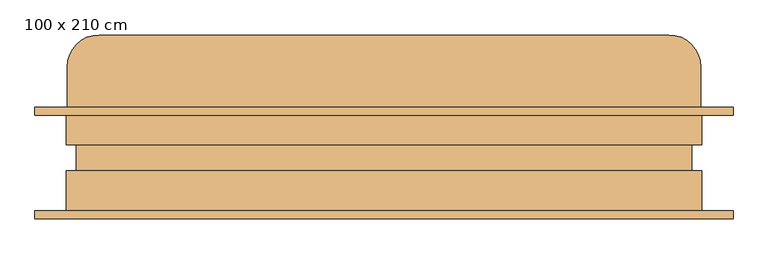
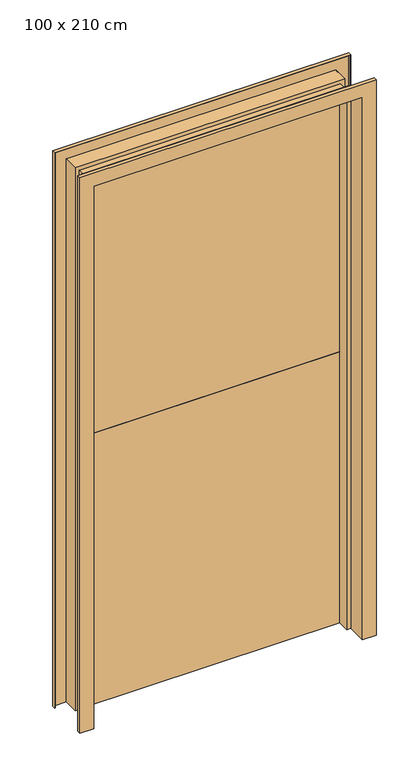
"""IFC4 building model written with IfcOpenShell, lengths in millimetres: door geometry, Dutch_door_-_2_stacked_leaves_2298 : 100 x 210 cm."""

from ifc_helpers import new_model, si_unit, frame, origin, place, context, project, spatial, polyline, circle_curve, outline, extrude, faceted_brep, source, transform, mapped, element, save
from ifc_brep_helpers import plane_surface, cylinder_surface, advanced_brep


def door_100_x_210_cm_40a421d0(model_context):
    return source(origin(), model_context, "Body", "SolidModel", [
        faceted_brep([(-550.8, -87.7, 0.0), (-550.8, -75.0, 0.0), (-549.2125, -75.0, 0.0), (-549.2125, -86.1125, 0.0), (-501.5875, -86.1125, 0.0), (-501.5875, -12.3125, 0.0), (-485.7125, -12.3125, 0.0), (-485.7125, 28.9625, 0.0), (-501.5875, 28.9625, 0.0), (-501.5875, 86.1125, 0.0), (-549.2125, 86.1125, 0.0), (-549.2125, 75.0, 0.0), (-550.8, 75.0, 0.0), (-550.8, 87.7, 0.0), (-500.0, 87.7, 0.0), (-500.0, 30.55, 0.0), (-484.125, 30.55, 0.0), (-484.125, -13.9, 0.0), (-500.0, -13.9, 0.0), (-500.0, -87.7, 0.0), (-550.8, -87.7, 2184.4), (-550.8, -75.0, 2184.4), (550.8, -75.0, 2184.4), (550.8, -75.0, 0.0), (549.2125, -75.0, 0.0), (549.2125, -75.0, 2182.8125), (-549.2125, -75.0, 2182.8125), (-549.2125, -86.1125, 2182.8125), (549.2125, -86.1125, 2182.8125), (549.2125, -86.1125, 0.0), (501.5875, -86.1125, 0.0), (501.5875, -86.1125, 2135.1875), (-501.5875, -86.1125, 2135.1875), (-501.5875, -12.3125, 2135.1875), (501.5875, -12.3125, 2135.1875), (501.5875, -12.3125, 0.0), (485.7125, -12.3125, 0.0), (485.7125, -12.3125, 2119.3125), (-485.7125, -12.3125, 2119.3125), (-485.7125, 28.9625, 2119.3125), (485.7125, 28.9625, 2119.3125), (485.7125, 28.9625, 0.0), (501.5875, 28.9625, 0.0), (501.5875, 28.9625, 2135.1875), (-501.5875, 28.9625, 2135.1875), (-501.5875, 86.1125, 2135.1875), (501.5875, 86.1125, 2135.1875), (501.5875, 86.1125, 0.0), (549.2125, 86.1125, 0.0), (549.2125, 86.1125, 2182.8125), (-549.2125, 86.1125, 2182.8125), (-549.2125, 75.0, 2182.8125), (549.2125, 75.0, 2182.8125), (549.2125, 75.0, 0.0), (550.8, 75.0, 0.0), (550.8, 75.0, 2184.4), (-550.8, 75.0, 2184.4), (-550.8, 87.7, 2184.4), (550.8, 87.7, 2184.4), (550.8, 87.7, 0.0), (500.0, 87.7, 0.0), (500.0, 87.7, 2133.6), (-500.0, 87.7, 2133.6), (-500.0, 30.55, 2133.6), (500.0, 30.55, 2133.6), (500.0, 30.55, 0.0), (484.125, 30.55, 0.0), (484.125, 30.55, 2117.725), (-484.125, 30.55, 2117.725), (-484.125, -13.9, 2117.725), (484.125, -13.9, 2117.725), (484.125, -13.9, 0.0), (500.0, -13.9, 0.0), (500.0, -13.9, 2133.6), (-500.0, -13.9, 2133.6), (-500.0, -87.7, 2133.6), (500.0, -87.7, 2133.6), (500.0, -87.7, 0.0), (550.8, -87.7, 0.0), (550.8, -87.7, 2184.4)], [[[0, 1, 2, 3, 4, 5, 6, 7, 8, 9, 10, 11, 12, 13, 14, 15, 16, 17, 18, 19]], [[1, 0, 20, 21]], [[2, 1, 21, 22, 23, 24, 25, 26]], [[3, 2, 26, 27]], [[4, 3, 27, 28, 29, 30, 31, 32]], [[5, 4, 32, 33]], [[6, 5, 33, 34, 35, 36, 37, 38]], [[7, 6, 38, 39]], [[8, 7, 39, 40, 41, 42, 43, 44]], [[9, 8, 44, 45]], [[10, 9, 45, 46, 47, 48, 49, 50]], [[11, 10, 50, 51]], [[12, 11, 51, 52, 53, 54, 55, 56]], [[13, 12, 56, 57]], [[14, 13, 57, 58, 59, 60, 61, 62]], [[15, 14, 62, 63]], [[16, 15, 63, 64, 65, 66, 67, 68]], [[17, 16, 68, 69]], [[18, 17, 69, 70, 71, 72, 73, 74]], [[19, 18, 74, 75]], [[0, 19, 75, 76, 77, 78, 79, 20]], [[22, 79, 78, 23]], [[78, 77, 72, 71, 66, 65, 60, 59, 54, 53, 48, 47, 42, 41, 36, 35, 30, 29, 24, 23]], [[28, 25, 24, 29]], [[34, 31, 30, 35]], [[40, 37, 36, 41]], [[46, 43, 42, 47]], [[52, 49, 48, 53]], [[58, 55, 54, 59]], [[64, 61, 60, 65]], [[70, 67, 66, 71]], [[76, 73, 72, 77]], [[21, 20, 79, 22]], [[27, 26, 25, 28]], [[33, 32, 31, 34]], [[39, 38, 37, 40]], [[45, 44, 43, 46]], [[51, 50, 49, 52]], [[57, 56, 55, 58]], [[63, 62, 61, 64]], [[69, 68, 67, 70]], [[75, 74, 73, 76]]]),
        extrude(outline(polyline([(500.0, 30.55), (-500.0, 30.55), (-500.0, 75.0), (500.0, 75.0), (500.0, 30.55)])), frame((0.0, 0.0, 1066.8), z_axis=(0.0, 0.0, 1.0), x_axis=(1.0, 0.0, 0.0)), (0.0, 0.0, 1.0), 1066.8),
        advanced_brep(
        [(500.0, 30.55, 0.0), (500.0, 30.55, 1066.8), (-500.0, 30.55, 1066.8), (-500.0, 30.55, 0.0), (500.0, 75.0, 0.0), (-500.0, 75.0, 0.0), (-500.0, 75.0, 1040.6391515), (500.0, 75.0, 1040.6391515), (500.0, 151.3516411, 1066.8), (449.2, 202.1516411, 1066.8), (-449.2, 202.1516411, 1066.8), (-500.0, 151.3516411, 1066.8), (-500.0, 151.3516411, 1040.6391515), (500.0, 151.3516411, 1040.6391515), (-449.2, 202.1516411, 1040.6391515), (449.2, 202.1516411, 1040.6391515)],
        [
            (0, 1),
            (1, 2),
            (2, 3),
            (3, 0),
            (4, 5),
            (5, 6),
            (6, 7),
            (7, 4),
            (1, 8),
            (8, 9, circle_curve(frame((449.2, 151.3516411, 1066.8), z_axis=(0.0, 0.0, 1.0), x_axis=(1.0, 0.0, 0.0)), 50.8)),
            (9, 10),
            (10, 11, circle_curve(frame((-449.2, 151.3516411, 1066.8), z_axis=(0.0, 0.0, 1.0), x_axis=(1.0, 0.0, 0.0)), 50.8)),
            (11, 2),
            (11, 12),
            (12, 6),
            (5, 3),
            (4, 0),
            (7, 13),
            (13, 8),
            (12, 14, circle_curve(frame((-449.2, 151.3516411, 1040.6391515), z_axis=(0.0, 0.0, -1.0), x_axis=(1.0, 0.0, 0.0)), 50.8)),
            (14, 15),
            (15, 13, circle_curve(frame((449.2, 151.3516411, 1040.6391515), z_axis=(0.0, 0.0, -1.0), x_axis=(1.0, 0.0, 0.0)), 50.8)),
            (15, 9),
            (14, 10),
        ],
        [
            plane_surface(frame((-500.0, 30.55, 1066.8), z_axis=(0.0, -1.0, 0.0), x_axis=(-1.0, 0.0, 0.0))),
            plane_surface(frame((-500.0, 75.0, 1066.8), z_axis=(0.0, 1.0, 0.0), x_axis=(1.0, 0.0, 0.0))),
            plane_surface(frame((500.0, 30.55, 1066.8), z_axis=(0.0, 0.0, 1.0), x_axis=(0.0, 1.0, 0.0))),
            plane_surface(frame((-500.0, 30.55, 1066.8), z_axis=(-1.0, 0.0, 0.0), x_axis=(0.0, 1.0, 0.0))),
            plane_surface(frame((-500.0, 30.55, 0.0), z_axis=(0.0, 0.0, -1.0), x_axis=(0.0, 1.0, 0.0))),
            plane_surface(frame((500.0, 30.55, 0.0), z_axis=(1.0, 0.0, 0.0), x_axis=(0.0, 1.0, 0.0))),
            plane_surface(frame((500.0, 30.55, 1040.6391515), z_axis=(0.0, 0.0, -1.0), x_axis=(0.0, -1.0, 0.0))),
            cylinder_surface(frame((449.2, 151.3516411, 1040.6391515), z_axis=(0.0, 0.0, 1.0), x_axis=(1.0, 0.0, 0.0)), 50.8),
            plane_surface(frame((449.2, 202.1516411, 1066.8), z_axis=(0.0, 1.0, 0.0), x_axis=(0.0, 0.0, -1.0))),
            cylinder_surface(frame((-449.2, 151.3516411, 1040.6391515), z_axis=(0.0, 0.0, 1.0), x_axis=(1.0, 0.0, 0.0)), 50.8),
        ],
        [
            (0, [[1, 2, 3, 4]]),
            (1, [[5, 6, 7, 8]]),
            (2, [[-2, 9, 10, 11, 12, 13]]),
            (3, [[-13, 14, 15, -6, 16, -3]]),
            (4, [[-4, -16, -5, 17]]),
            (5, [[-9, -1, -17, -8, 18, 19]]),
            (6, [[20, 21, 22, -18, -7, -15]]),
            (7, [[-10, -19, -22, 23]]),
            (8, [[-11, -23, -21, 24]]),
            (9, [[-12, -24, -20, -14]]),
        ],
    ),
    ])


if __name__ == "__main__":
    model = new_model("IFC4")
    model_context = context("Model", 3, world=origin())
    ifc_project = project(units=[si_unit("LENGTHUNIT", "METRE", prefix="MILLI")], contexts=[model_context])
    site = spatial("IfcSite", under=ifc_project)
    building = spatial("IfcBuilding", under=site)
    placement = place(None, origin())
    door_100_x_210_cm_shape = door_100_x_210_cm_40a421d0(model_context)
    element("IfcDoor", 1, ObjectType="Dutch_door_-_2_stacked_leaves_2298 : 100 x 210 cm", at=placement, inside=building, context=model_context, shape_type="MappedRepresentation", body=[
        mapped(door_100_x_210_cm_shape, transform((0.0, 0.0, 0.0), x_axis=(1.0, 0.0, 0.0), y_axis=(0.0, 1.0, 0.0), z_axis=(0.0, 0.0, 1.0))),
    ])
    save(model, "model.ifc")
